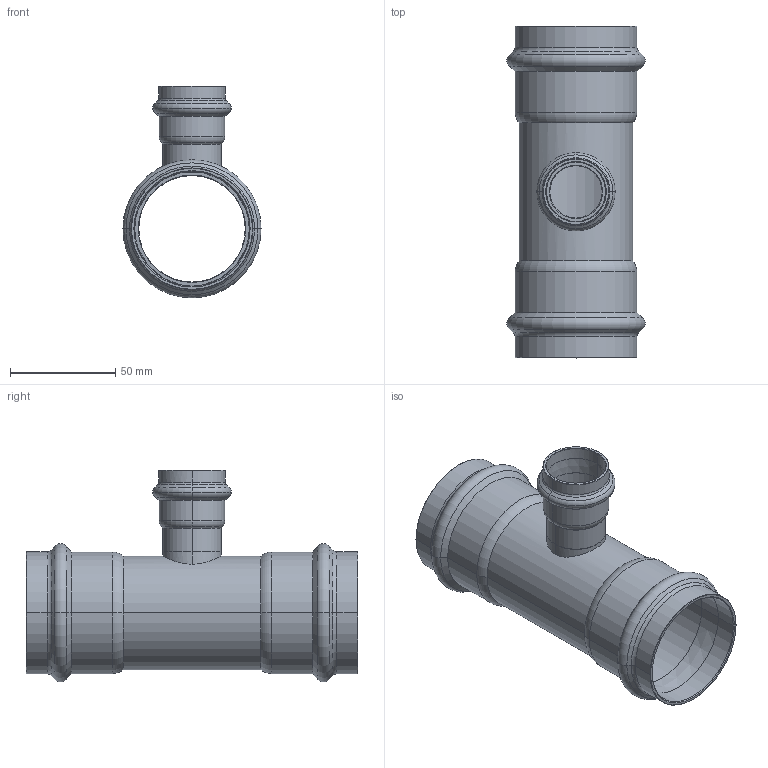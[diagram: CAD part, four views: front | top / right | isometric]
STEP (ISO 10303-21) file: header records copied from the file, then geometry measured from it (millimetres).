
FILE_DESCRIPTION(('CoCreate Modeling STEP Export'),'2;1');
FILE_NAME('8130RVW542854.stp','2013-01-31T14:46:22',(''),(''),'CoCreate Modeling STEP processor for AP214 (Solid Model)','CoCreate Modeling 17.00A 17-Jun-2010 (C) Parametric Technology GmbH','');
FILE_SCHEMA(('AUTOMOTIVE_DESIGN { 1 0 10303 214 1 1 1 1 }'));
Length unit declared in the file: millimetre
Products named in the file (1): 8130RVW542854
Bounding box: 65.68 x 157.73 x 100.68 mm (x, y, z)
Volume: 63210.9 mm3; surface area: 64758.9 mm2
Topology: 1 solids, 1 shells, 130 faces, 276 edges, 156 vertices
Faces by surface type: cylinder 42, torus 38, cone 38, plane 10, bspline 2
Entity records: 5148 total; most frequent: CARTESIAN_POINT 2779, ORIENTED_EDGE 552, DIRECTION 430, EDGE_CURVE 276, AXIS2_PLACEMENT_3D 175, VERTEX_POINT 156, EDGE_LOOP 142, FACE_OUTER_BOUND 130
